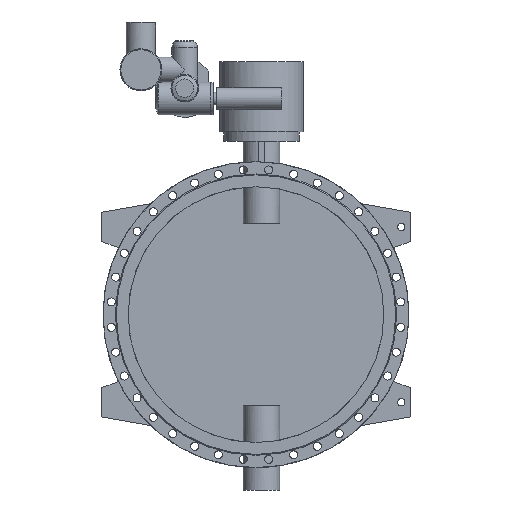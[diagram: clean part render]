
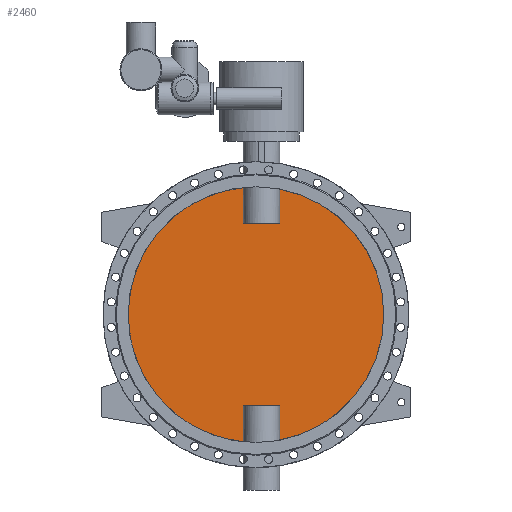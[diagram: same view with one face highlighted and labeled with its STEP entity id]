
A CAD part, front view. The second image highlights one B-rep face of the part: STEP entity #2460.
In plain terms, the highlighted planar face has unit normal (0, -1, 0).
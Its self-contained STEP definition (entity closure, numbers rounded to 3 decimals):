
#2460=ADVANCED_FACE('',(#5041),#5043,.F.);
#5041=FACE_BOUND('',#5042,.T.);
#5042=EDGE_LOOP('',(#6127,#6128,#6129,#6130,#6131,#6132,#6133,#6134));
#5043=PLANE('',#5044);
#5044=AXIS2_PLACEMENT_3D('',#5045,#5046,#5047);
#5045=CARTESIAN_POINT('',(0.,-5.,0.));
#5046=DIRECTION('',(0.,1.,0.));
#5047=DIRECTION('',(1.,0.,0.));
#6127=ORIENTED_EDGE('',*,*,#6671,.T.);
#6128=ORIENTED_EDGE('',*,*,#6676,.T.);
#6129=ORIENTED_EDGE('',*,*,#6677,.T.);
#6130=ORIENTED_EDGE('',*,*,#6678,.T.);
#6131=ORIENTED_EDGE('',*,*,#6673,.T.);
#6132=ORIENTED_EDGE('',*,*,#6679,.T.);
#6133=ORIENTED_EDGE('',*,*,#6680,.T.);
#6134=ORIENTED_EDGE('',*,*,#6681,.T.);
#6671=EDGE_CURVE('',#7641,#7642,#7643,.F.);
#6673=EDGE_CURVE('',#7646,#7644,#7647,.F.);
#6676=EDGE_CURVE('',#7642,#7651,#7652,.T.);
#6677=EDGE_CURVE('',#7651,#7653,#7654,.F.);
#6678=EDGE_CURVE('',#7653,#7646,#7655,.F.);
#6679=EDGE_CURVE('',#7644,#7656,#7657,.F.);
#6680=EDGE_CURVE('',#7656,#7658,#7659,.F.);
#6681=EDGE_CURVE('',#7658,#7641,#7660,.T.);
#7641=VERTEX_POINT('',#11859);
#7642=VERTEX_POINT('',#11860);
#7643=CIRCLE('',#11861,700.);
#7644=VERTEX_POINT('',#11865);
#7646=VERTEX_POINT('',#11926);
#7647=CIRCLE('',#11927,700.);
#7651=VERTEX_POINT('',#12061);
#7652=LINE('',#12062,#12063);
#7653=VERTEX_POINT('',#12065);
#7654=LINE('',#12066,#12067);
#7655=LINE('',#12069,#12070);
#7656=VERTEX_POINT('',#12072);
#7657=LINE('',#12073,#12074);
#7658=VERTEX_POINT('',#12076);
#7659=LINE('',#12077,#12078);
#7660=LINE('',#12080,#12081);
#11859=CARTESIAN_POINT('',(129.875,-5.,-687.846));
#11860=CARTESIAN_POINT('',(129.875,-5.,687.846));
#11861=AXIS2_PLACEMENT_3D('',#11862,#11863,#11864);
#11862=CARTESIAN_POINT('',(0.,-5.,0.));
#11863=DIRECTION('',(0.,1.,0.));
#11864=DIRECTION('',(0.186,0.,0.983));
#11865=CARTESIAN_POINT('',(-69.875,-5.,-696.504));
#11926=CARTESIAN_POINT('',(-69.875,-5.,696.504));
#11927=AXIS2_PLACEMENT_3D('',#11928,#11929,#11930);
#11928=CARTESIAN_POINT('',(0.,-5.,0.));
#11929=DIRECTION('',(0.,1.,0.));
#11930=DIRECTION('',(-0.1,0.,-0.995));
#12061=CARTESIAN_POINT('',(129.875,-5.,500.));
#12062=CARTESIAN_POINT('',(129.875,-5.,687.846));
#12063=VECTOR('',#12064,1.);
#12064=DIRECTION('',(0.,0.,-1.));
#12065=CARTESIAN_POINT('',(-69.875,-5.,500.));
#12066=CARTESIAN_POINT('',(-69.875,-5.,500.));
#12067=VECTOR('',#12068,1.);
#12068=DIRECTION('',(1.,0.,0.));
#12069=CARTESIAN_POINT('',(-69.875,-5.,696.504));
#12070=VECTOR('',#12071,1.);
#12071=DIRECTION('',(0.,0.,-1.));
#12072=CARTESIAN_POINT('',(-69.875,-5.,-500.));
#12073=CARTESIAN_POINT('',(-69.875,-5.,-500.));
#12074=VECTOR('',#12075,1.);
#12075=DIRECTION('',(0.,0.,-1.));
#12076=CARTESIAN_POINT('',(129.875,-5.,-500.));
#12077=CARTESIAN_POINT('',(129.875,-5.,-500.));
#12078=VECTOR('',#12079,1.);
#12079=DIRECTION('',(-1.,0.,0.));
#12080=CARTESIAN_POINT('',(129.875,-5.,-500.));
#12081=VECTOR('',#12082,1.);
#12082=DIRECTION('',(0.,0.,-1.));
